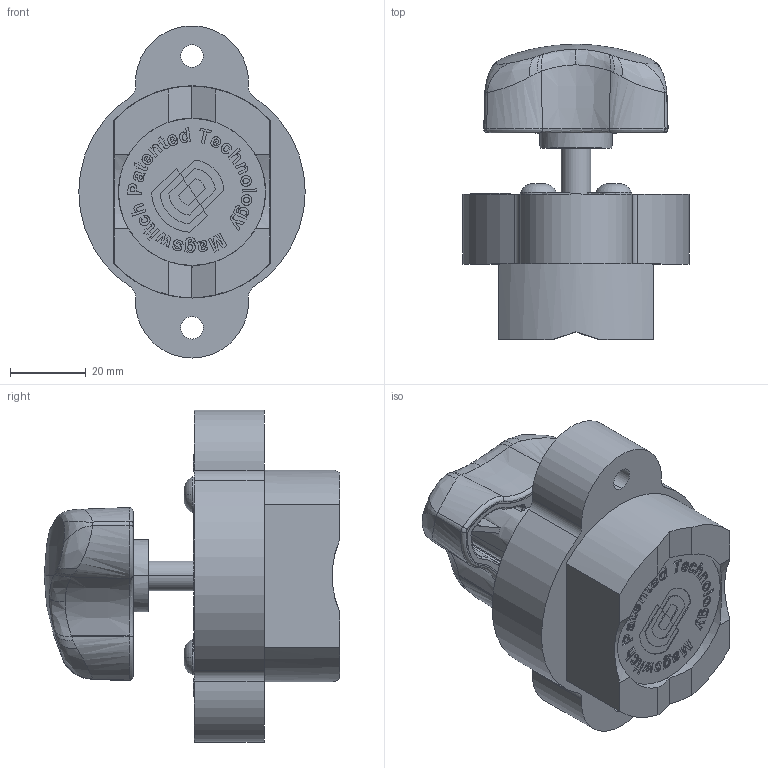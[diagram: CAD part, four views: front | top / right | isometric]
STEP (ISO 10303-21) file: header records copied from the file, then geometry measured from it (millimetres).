
FILE_DESCRIPTION (( 'STEP AP214' ), '1' );
FILE_NAME ('8100377_p.STEP', '2019-04-23T20:42:14', ( '' ), ( '' ), 'SwSTEP 2.0', 'SolidWorks 2018', '' );
FILE_SCHEMA (( 'AUTOMOTIVE_DESIGN' ));
Length unit declared in the file: millimetre
Products named in the file (1): 8100377_p
Bounding box: 60 x 78.26 x 87.94 mm (x, y, z)
Volume: 123499.5 mm3; surface area: 32412.9 mm2
Topology: 1 solids, 8 shells, 1197 faces, 3184 edges, 2076 vertices
Faces by surface type: bspline 562, plane 471, cylinder 97, cone 53, torus 10, sphere 4
Entity records: 90822 total; most frequent: CARTESIAN_POINT 52646, ORIENTED_EDGE 6352, DIRECTION 3453, EDGE_CURVE 3176, VERTEX_POINT 2076, LINE 1505, VECTOR 1505, EDGE_LOOP 1298
